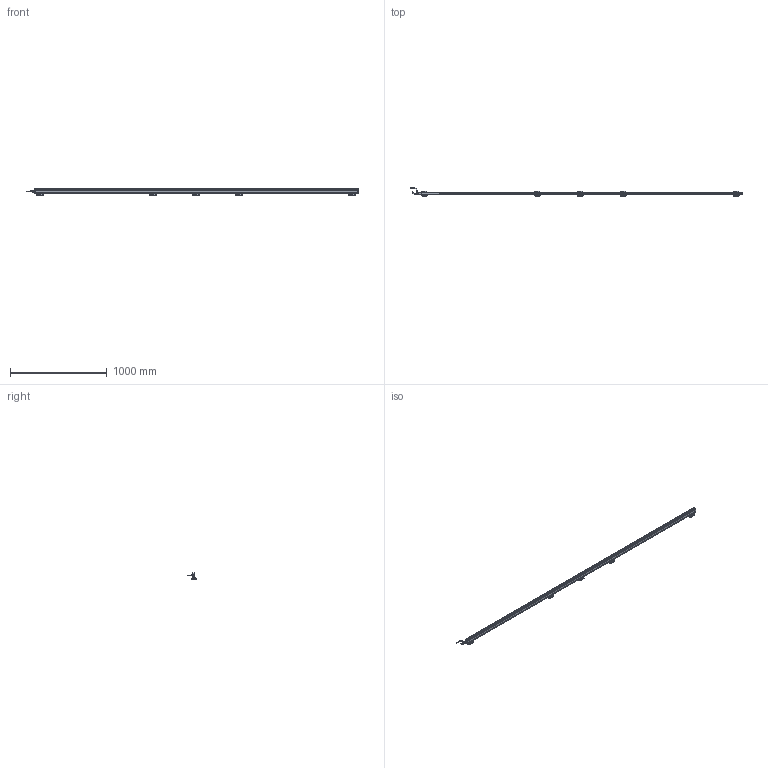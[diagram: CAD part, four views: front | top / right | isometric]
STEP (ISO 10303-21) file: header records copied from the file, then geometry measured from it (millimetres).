
FILE_DESCRIPTION(('Bauteilbeschreibung','HiCAD-Model','HiCAD-STEP-TRANSLATION','Bauteilbeschreibung'),'2;1');
FILE_NAME('PERFORMAXIQEASY_3270-3360_3D.STP','2014-03-05T13:17:15+00:00',('Konstrukteur'),('Konstrukteur Firma GmbH'),' HiCAD 2011, Step 1600.0 ','HiCAD 2011','confidential');
FILE_SCHEMA(('AUTOMOTIVE_DESIGN { 1 2 10303 214 0 1 1 1 }'));
Products named in the file (51): PERFORMAXIQEASY_3270_3360_3D; A_PERFORMAX IQ EASY 3270_3360; A_PERFORMAX IQ EASY SPEED; A_CAP DE; A_CAP CE_5; LED_2C_3MM; LED02C03MM; A519020315_CONNECTOR APPLIANCE; A_INSERT; A_CONTACTS; A_HOUSING; A_PROFILE; A_POTTING; PIN; PIN0; A532000100_BRACKET BARS_ MOUNT; A_SIDE PIECE; A0SIDE0PIECE; A_BRACKET SMALL; A_SLIDE PIECE; A5320001000BRACKET0BARS00MOUNT; A0SIDE0PIECE0; A0SIDE0PIECE1; A0BRACKET0SMALL; A0SLIDE0PIECE; A5320001000BRACKET0BARS00MOUNT0; A0SIDE0PIECE2; A0SIDE0PIECE3; A0BRACKET0SMALL0; A0SLIDE0PIECE0; A0SIDE0PIECE4; A0SIDE0PIECE5; A0BRACKET0SMALL1; A0SLIDE0PIECE1; A0SIDE0PIECE6; A0SIDE0PIECE7; A0BRACKET0SMALL2; A0SLIDE0PIECE2; A_CONNECTOR STRAIGHT; EXTRUDED SOLID_0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
Assembly tree (50 placements, depth 5):
  PERFORMAXIQEASY_3270_3360_3D
    A_PERFORMAX IQ EASY 3270_3360
      A_PERFORMAX IQ EASY SPEED
        A_CAP DE
        A_CAP CE_5
        LED_2C_3MM
        LED02C03MM
        A519020315_CONNECTOR APPLIANCE
          A_INSERT
          A_CONTACTS
          A_HOUSING
        A_PROFILE
        A_POTTING
        PIN
        PIN0
      A532000100_BRACKET BARS_ MOUNT
        A_SIDE PIECE
        A0SIDE0PIECE
        A_BRACKET SMALL
        A_SLIDE PIECE
      A5320001000BRACKET0BARS00MOUNT
        A0SIDE0PIECE0
        A0SIDE0PIECE1
        A0BRACKET0SMALL
        A0SLIDE0PIECE
      A5320001000BRACKET0BARS00MOUNT0
        A0SIDE0PIECE2
        A0SIDE0PIECE3
        A0BRACKET0SMALL0
        A0SLIDE0PIECE0
      A5320001000BRACKET0BARS00MOUNT0
        A0SIDE0PIECE4
        A0SIDE0PIECE5
        A0BRACKET0SMALL1
        A0SLIDE0PIECE1
      A5320001000BRACKET0BARS00MOUNT0
        A0SIDE0PIECE6
        A0SIDE0PIECE7
        A0BRACKET0SMALL2
        A0SLIDE0PIECE2
      A_CONNECTOR STRAIGHT
        EXTRUDED SOLID_0
        DRAAD GEBOGEN
        REVOLVED SOLID_1
        REVOLVED SOLID_3
      A_CONNECTOR ANGLED
        REVOLVED0SOLID01
        EXTRUDED0SOLID00
        C_EDGE SWEEP_0
        REVOLVED SOLID_2
        REVOLVED0SOLID03
Bounding box: 3437.89 x 84.28 x 63.13 mm (x, y, z)
Volume: 3459918.5 mm3; surface area: 839216.2 mm2
Topology: 45 solids, 45 shells, 4215 faces, 10820 edges, 6422 vertices
Faces by surface type: cylinder 1797, plane 1597, sphere 277, torus 252, bspline 208, cone 84
Full cylindrical faces by diameter (mm): 0.8 x10, 1 x5, 2.387 x10, 3 x23, 3.1 x1, 4.2 x2, 5 x4, 5.5 x25, 8 x2, 8.2 x1, 8.4 x2, 8.945 x1, 9 x2, 10.2 x1, 10.5 x3, 11 x1, 12 x3, 12.8 x1, 13.8 x4, 14.5 x3
Entity records: 195163 total; most frequent: CARTESIAN_POINT 45850, DIRECTION 20961, ORIENTED_EDGE 20534, EDGE_CURVE 10267, COLOUR_RGB 9750, PRESENTATION_STYLE_ASSIGNMENT 9750, OVER_RIDING_STYLED_ITEM 9710, CURVE_STYLE 9705
